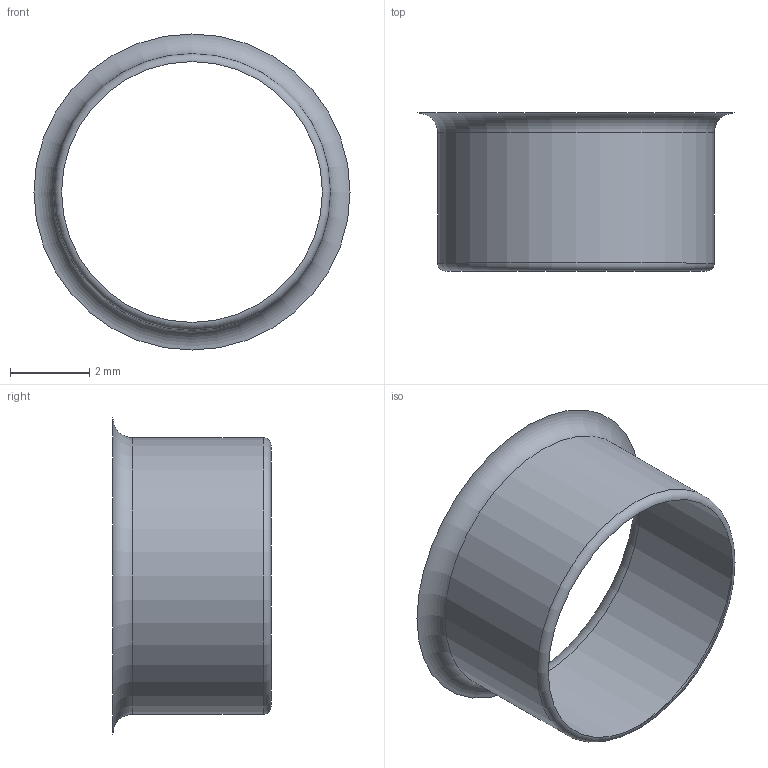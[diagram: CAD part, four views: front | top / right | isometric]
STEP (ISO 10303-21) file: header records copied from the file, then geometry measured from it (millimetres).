
FILE_DESCRIPTION(('BRL-CAD focused geometric regression fixture'),'2;1');
FILE_NAME('periodic_endpoint_branch','2026-07-25T00:00:00',('BRL-CAD'),('BRL-CAD'),'','','');
FILE_SCHEMA(('AUTOMOTIVE_DESIGN { 1 0 10303 214 3 1 1 1 }'));
Length unit declared in the file: millimetre
Products named in the file (1): periodic_endpoint_branch
Bounding box: 8 x 4 x 8 mm (x, y, z)
Surface area: 97.5 mm2 (no closed solid volume)
Topology: 0 solids, 1 shells, 3 faces, 7 edges, 4 vertices
Faces by surface type: torus 2, cylinder 1
Full cylindrical faces by diameter (mm): 7 x1
Entity records: 81 total; most frequent: DIRECTION 14, CARTESIAN_POINT 11, AXIS2_PLACEMENT_3D 7, EDGE_LOOP 6, ORIENTED_EDGE 6, CIRCLE 4, VERTEX_POINT 4, EDGE_CURVE 4
